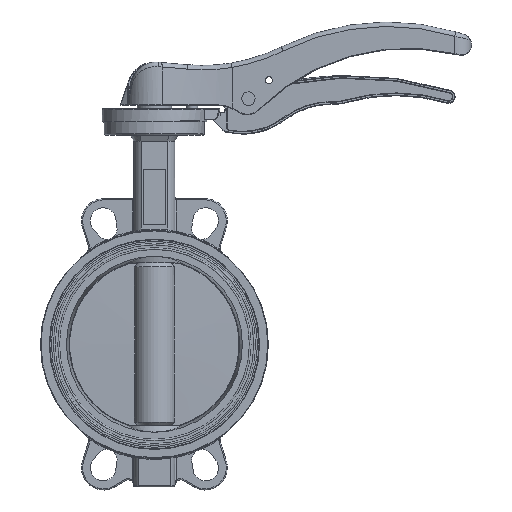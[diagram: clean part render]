
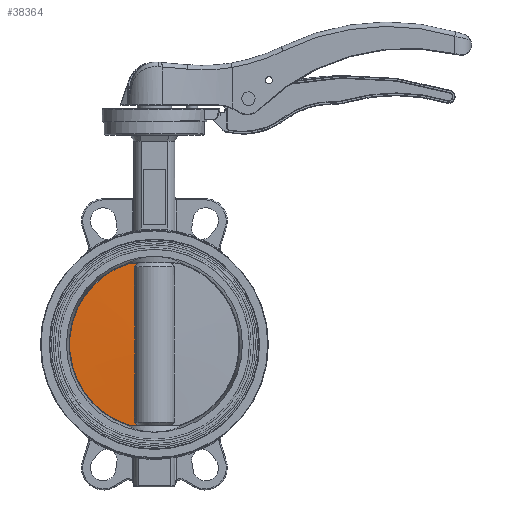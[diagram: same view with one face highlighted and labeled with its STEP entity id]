
A CAD part, top view. The second image highlights one B-rep face of the part: STEP entity #38364.
In plain terms, the highlighted conical face has half-angle 88.82 degrees and reference radius 76.201 mm.
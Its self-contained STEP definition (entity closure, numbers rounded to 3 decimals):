
#4980 = CARTESIAN_POINT ( 'NONE',  ( -21.347, 73.15, 4. ) ) ;
#5804 = CARTESIAN_POINT ( 'NONE',  ( -14.759, 73.15, 4.032 ) ) ;
#6032 = CARTESIAN_POINT ( 'NONE',  ( -21.347, 73.15, 4. ) ) ;
#6034 = CARTESIAN_POINT ( 'NONE',  ( -19.151, 73.15, 4.013 ) ) ;
#6036 = CARTESIAN_POINT ( 'NONE',  ( -16.955, 73.15, 4.024 ) ) ;
#6038 = CARTESIAN_POINT ( 'NONE',  ( -14.759, 73.15, 4.032 ) ) ;
#6046 = B_SPLINE_CURVE_WITH_KNOTS ( 'NONE', 3,
 ( #6038, #6036, #6034, #6032 ),
 .UNSPECIFIED., .F., .F.,
 ( 4, 4 ),
 ( 0.015, 0.021 ),
 .UNSPECIFIED. ) ;
#18215 = VERTEX_POINT ( 'NONE', #21752 ) ;
#18261 = EDGE_CURVE ( 'NONE', #38530, #18215, #22142, .T. ) ;
#21752 = CARTESIAN_POINT ( 'NONE',  ( -14.759, -73.15, 4.032 ) ) ;
#22111 = CARTESIAN_POINT ( 'NONE',  ( -14.759, -73.15, 4.032 ) ) ;
#22113 = CARTESIAN_POINT ( 'NONE',  ( -16.955, -73.15, 4.024 ) ) ;
#22121 = CARTESIAN_POINT ( 'NONE',  ( -19.151, -73.15, 4.013 ) ) ;
#22123 = CARTESIAN_POINT ( 'NONE',  ( -21.347, -73.15, 4. ) ) ;
#22142 = B_SPLINE_CURVE_WITH_KNOTS ( 'NONE', 3,
 ( #22123, #22121, #22113, #22111 ),
 .UNSPECIFIED., .F., .F.,
 ( 4, 4 ),
 ( 0.025, 0.031 ),
 .UNSPECIFIED. ) ;
#26054 = VERTEX_POINT ( 'NONE', #5804 ) ;
#26149 = VERTEX_POINT ( 'NONE', #4980 ) ;
#26158 = EDGE_CURVE ( 'NONE', #26054, #26149, #6046, .T. ) ;
#38175 = EDGE_CURVE ( 'NONE', #26149, #38530, #46222, .T. ) ;
#38176 = VERTEX_POINT ( 'NONE', #46265 ) ;
#38322 = EDGE_CURVE ( 'NONE', #38176, #38323, #46576, .T. ) ;
#38323 = VERTEX_POINT ( 'NONE', #46517 ) ;
#38331 = EDGE_CURVE ( 'NONE', #38323, #26054, #42601, .T. ) ;
#38336 = EDGE_CURVE ( 'NONE', #18215, #38176, #42621, .T. ) ;
#38361 = ORIENTED_EDGE ( 'NONE', *, *, #18261, .T. ) ;
#38364 = ADVANCED_FACE ( 'NONE', ( #42647 ), #42642, .T. ) ;
#38365 = ORIENTED_EDGE ( 'NONE', *, *, #38336, .T. ) ;
#38376 = EDGE_LOOP ( 'NONE', ( #38393, #38394, #38391, #38361, #38365, #38410 ) ) ;
#38391 = ORIENTED_EDGE ( 'NONE', *, *, #38175, .T. ) ;
#38393 = ORIENTED_EDGE ( 'NONE', *, *, #38331, .T. ) ;
#38394 = ORIENTED_EDGE ( 'NONE', *, *, #26158, .T. ) ;
#38410 = ORIENTED_EDGE ( 'NONE', *, *, #38322, .T. ) ;
#38530 = VERTEX_POINT ( 'NONE', #42805 ) ;
#42601 = B_SPLINE_CURVE_WITH_KNOTS ( 'NONE', 3,
 ( #42636, #42635, #42634, #42633 ),
 .UNSPECIFIED., .F., .F.,
 ( 4, 4 ),
 ( 0., 0.005 ),
 .UNSPECIFIED. ) ;
#42613 = CARTESIAN_POINT ( 'NONE',  ( -18.044, -69.95, 4.082 ) ) ;
#42614 = CARTESIAN_POINT ( 'NONE',  ( -16.952, -71.019, 4.066 ) ) ;
#42615 = CARTESIAN_POINT ( 'NONE',  ( -15.857, -72.086, 4.049 ) ) ;
#42616 = CARTESIAN_POINT ( 'NONE',  ( -14.759, -73.15, 4.032 ) ) ;
#42621 = B_SPLINE_CURVE_WITH_KNOTS ( 'NONE', 3,
 ( #42616, #42615, #42614, #42613 ),
 .UNSPECIFIED., .F., .F.,
 ( 4, 4 ),
 ( 0.003, 0.007 ),
 .UNSPECIFIED. ) ;
#42633 = CARTESIAN_POINT ( 'NONE',  ( -14.759, 73.15, 4.032 ) ) ;
#42634 = CARTESIAN_POINT ( 'NONE',  ( -15.857, 72.086, 4.049 ) ) ;
#42635 = CARTESIAN_POINT ( 'NONE',  ( -16.952, 71.019, 4.066 ) ) ;
#42636 = CARTESIAN_POINT ( 'NONE',  ( -18.044, 69.95, 4.082 ) ) ;
#42642 = CONICAL_SURFACE ( 'NONE', #42698, 76.201, 1.55 ) ;
#42647 = FACE_OUTER_BOUND ( 'NONE', #38376, .T. ) ;
#42688 = DIRECTION ( 'NONE',  ( -1., 0., 0. ) ) ;
#42691 = DIRECTION ( 'NONE',  ( 0., 0., -1. ) ) ;
#42692 = CARTESIAN_POINT ( 'NONE',  ( 0., 0., 4. ) ) ;
#42698 = AXIS2_PLACEMENT_3D ( 'NONE', #42692, #42691, #42688 ) ;
#42805 = CARTESIAN_POINT ( 'NONE',  ( -21.347, -73.15, 4. ) ) ;
#46222 = CIRCLE ( 'NONE', #46228, 76.201 ) ;
#46228 = AXIS2_PLACEMENT_3D ( 'NONE', #46231, #46258, #46257 ) ;
#46231 = CARTESIAN_POINT ( 'NONE',  ( 0., 0., 4. ) ) ;
#46257 = DIRECTION ( 'NONE',  ( 1., 0., 0. ) ) ;
#46258 = DIRECTION ( 'NONE',  ( 0., 0., 1. ) ) ;
#46265 = CARTESIAN_POINT ( 'NONE',  ( -18.044, -69.95, 4.082 ) ) ;
#46517 = CARTESIAN_POINT ( 'NONE',  ( -18.044, 69.95, 4.082 ) ) ;
#46565 = CARTESIAN_POINT ( 'NONE',  ( -17.772, 11.662, 5.14 ) ) ;
#46566 = CARTESIAN_POINT ( 'NONE',  ( -17.753, 5.832, 5.204 ) ) ;
#46567 = CARTESIAN_POINT ( 'NONE',  ( -17.753, -5.829, 5.204 ) ) ;
#46568 = CARTESIAN_POINT ( 'NONE',  ( -17.772, -11.659, 5.14 ) ) ;
#46569 = CARTESIAN_POINT ( 'NONE',  ( -17.82, -23.318, 4.971 ) ) ;
#46570 = CARTESIAN_POINT ( 'NONE',  ( -17.848, -29.147, 4.868 ) ) ;
#46571 = CARTESIAN_POINT ( 'NONE',  ( -17.934, -46.634, 4.546 ) ) ;
#46572 = CARTESIAN_POINT ( 'NONE',  ( -17.991, -58.292, 4.314 ) ) ;
#46575 = CARTESIAN_POINT ( 'NONE',  ( -18.044, -69.95, 4.082 ) ) ;
#46576 = B_SPLINE_CURVE_WITH_KNOTS ( 'NONE', 3,
 ( #46575, #46572, #46571, #46570, #46569, #46568, #46567, #46566, #46565, #46602, #46601, #46600, #46599, #46598 ),
 .UNSPECIFIED., .F., .F.,
 ( 4, 2, 2, 2, 2, 2, 4 ),
 ( 0.012, 0.047, 0.064, 0.082, 0.099, 0.117, 0.152 ),
 .UNSPECIFIED. ) ;
#46598 = CARTESIAN_POINT ( 'NONE',  ( -18.044, 69.95, 4.082 ) ) ;
#46599 = CARTESIAN_POINT ( 'NONE',  ( -17.991, 58.293, 4.314 ) ) ;
#46600 = CARTESIAN_POINT ( 'NONE',  ( -17.934, 46.635, 4.546 ) ) ;
#46601 = CARTESIAN_POINT ( 'NONE',  ( -17.848, 29.149, 4.868 ) ) ;
#46602 = CARTESIAN_POINT ( 'NONE',  ( -17.82, 23.32, 4.971 ) ) ;
